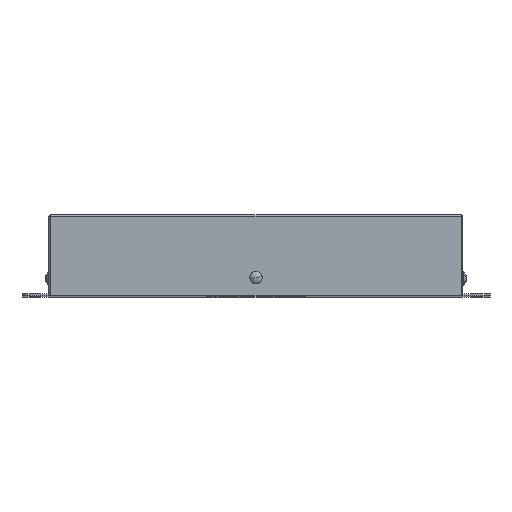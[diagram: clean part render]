
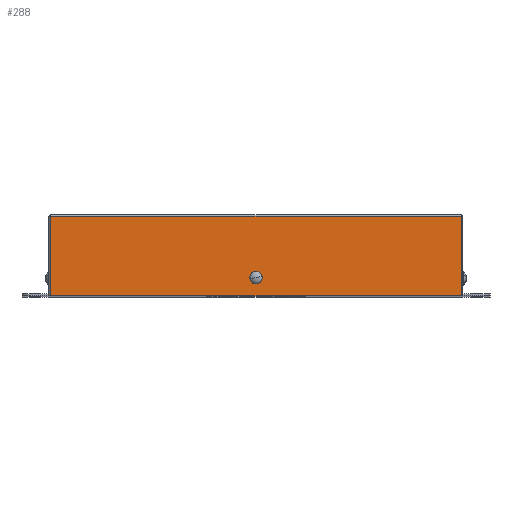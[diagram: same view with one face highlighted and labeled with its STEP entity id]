
A CAD part, top view. The second image highlights one B-rep face of the part: STEP entity #288.
In plain terms, the highlighted planar face has unit normal (0, 0, 1).
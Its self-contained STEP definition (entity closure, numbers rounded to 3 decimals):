
#85 = DIRECTION ( 'NONE',  ( 0., -1., 0. ) ) ;
#199 = FACE_OUTER_BOUND ( 'NONE', #4748, .T. ) ;
#209 = DIRECTION ( 'NONE',  ( 0., -1., 0. ) ) ;
#278 = CARTESIAN_POINT ( 'NONE',  ( -115., 0., 265. ) ) ;
#288 = ADVANCED_FACE ( 'NONE', ( #5053, #199 ), #1568, .T. ) ;
#678 = DIRECTION ( 'NONE',  ( 0., 0., 1. ) ) ;
#710 = CIRCLE ( 'NONE', #1723, 3.45 ) ;
#1193 = LINE ( 'NONE', #2071, #5415 ) ;
#1568 = PLANE ( 'NONE',  #4780 ) ;
#1678 = VECTOR ( 'NONE', #2852, 1000. ) ;
#1723 = AXIS2_PLACEMENT_3D ( 'NONE', #2773, #2726, #85 ) ;
#1753 = VERTEX_POINT ( 'NONE', #4185 ) ;
#1816 = CARTESIAN_POINT ( 'NONE',  ( 114., 0., 265. ) ) ;
#1960 = DIRECTION ( 'NONE',  ( 0., -1., 0. ) ) ;
#2005 = EDGE_CURVE ( 'NONE', #3026, #4957, #1193, .T. ) ;
#2010 = DIRECTION ( 'NONE',  ( 1., 0., 0. ) ) ;
#2071 = CARTESIAN_POINT ( 'NONE',  ( -115., 44., 265. ) ) ;
#2180 = LINE ( 'NONE', #1816, #4430 ) ;
#2409 = DIRECTION ( 'NONE',  ( -1., 0., 0. ) ) ;
#2447 = ORIENTED_EDGE ( 'NONE', *, *, #3484, .T. ) ;
#2593 = EDGE_CURVE ( 'NONE', #3591, #4694, #710, .T. ) ;
#2606 = CARTESIAN_POINT ( 'NONE',  ( -114., 0., 265. ) ) ;
#2720 = CARTESIAN_POINT ( 'NONE',  ( 0.649, 6.612, 265. ) ) ;
#2726 = DIRECTION ( 'NONE',  ( 0., 0., 1. ) ) ;
#2773 = CARTESIAN_POINT ( 'NONE',  ( 0., 10., 265. ) ) ;
#2852 = DIRECTION ( 'NONE',  ( 0., -1., 0. ) ) ;
#3026 = VERTEX_POINT ( 'NONE', #5256 ) ;
#3111 = ORIENTED_EDGE ( 'NONE', *, *, #4950, .T. ) ;
#3174 = ORIENTED_EDGE ( 'NONE', *, *, #2005, .T. ) ;
#3484 = EDGE_CURVE ( 'NONE', #1753, #3026, #2180, .T. ) ;
#3502 = VECTOR ( 'NONE', #2010, 1000. ) ;
#3591 = VERTEX_POINT ( 'NONE', #5051 ) ;
#3677 = CIRCLE ( 'NONE', #4218, 3.45 ) ;
#3687 = LINE ( 'NONE', #4565, #1678 ) ;
#4006 = DIRECTION ( 'NONE',  ( 0., 1., 0. ) ) ;
#4073 = CARTESIAN_POINT ( 'NONE',  ( -115., 0., 265. ) ) ;
#4176 = LINE ( 'NONE', #278, #3502 ) ;
#4184 = ORIENTED_EDGE ( 'NONE', *, *, #4436, .T. ) ;
#4185 = CARTESIAN_POINT ( 'NONE',  ( 114., 0., 265. ) ) ;
#4218 = AXIS2_PLACEMENT_3D ( 'NONE', #5038, #4989, #209 ) ;
#4220 = EDGE_LOOP ( 'NONE', ( #4922, #4871 ) ) ;
#4430 = VECTOR ( 'NONE', #4006, 1000. ) ;
#4436 = EDGE_CURVE ( 'NONE', #4957, #4716, #3687, .T. ) ;
#4468 = EDGE_CURVE ( 'NONE', #4694, #3591, #3677, .T. ) ;
#4565 = CARTESIAN_POINT ( 'NONE',  ( -114., 0., 265. ) ) ;
#4694 = VERTEX_POINT ( 'NONE', #2720 ) ;
#4716 = VERTEX_POINT ( 'NONE', #2606 ) ;
#4748 = EDGE_LOOP ( 'NONE', ( #3174, #4184, #3111, #2447 ) ) ;
#4780 = AXIS2_PLACEMENT_3D ( 'NONE', #4073, #678, #1960 ) ;
#4871 = ORIENTED_EDGE ( 'NONE', *, *, #4468, .F. ) ;
#4922 = ORIENTED_EDGE ( 'NONE', *, *, #2593, .F. ) ;
#4950 = EDGE_CURVE ( 'NONE', #4716, #1753, #4176, .T. ) ;
#4957 = VERTEX_POINT ( 'NONE', #5589 ) ;
#4989 = DIRECTION ( 'NONE',  ( 0., 0., 1. ) ) ;
#5038 = CARTESIAN_POINT ( 'NONE',  ( 0., 10., 265. ) ) ;
#5051 = CARTESIAN_POINT ( 'NONE',  ( -0.649, 13.388, 265. ) ) ;
#5053 = FACE_BOUND ( 'NONE', #4220, .T. ) ;
#5256 = CARTESIAN_POINT ( 'NONE',  ( 114., 44., 265. ) ) ;
#5415 = VECTOR ( 'NONE', #2409, 1000. ) ;
#5589 = CARTESIAN_POINT ( 'NONE',  ( -114., 44., 265. ) ) ;
